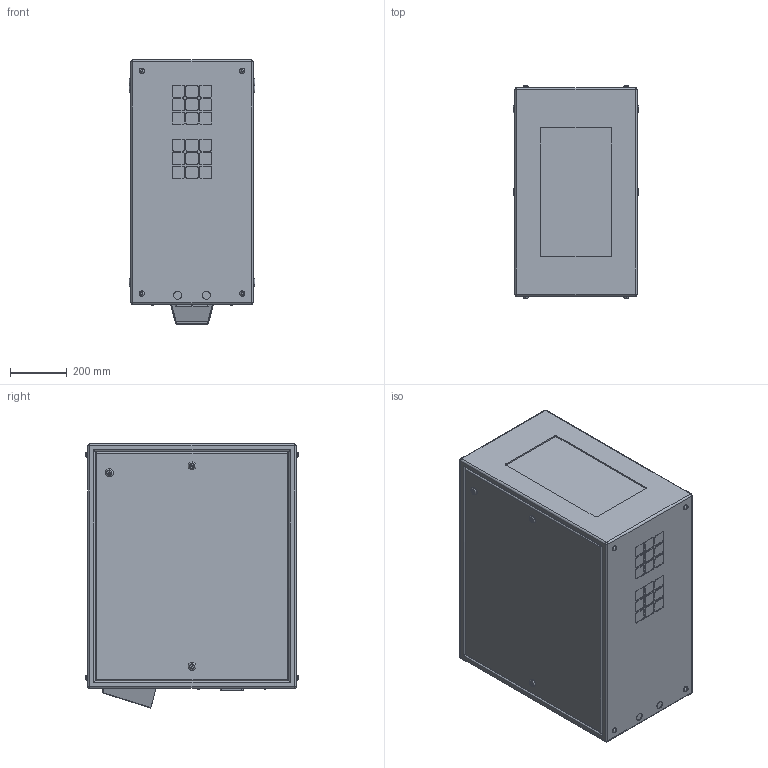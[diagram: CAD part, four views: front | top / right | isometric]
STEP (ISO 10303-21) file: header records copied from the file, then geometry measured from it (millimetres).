
FILE_DESCRIPTION (( 'STEP AP214' ), '1' );
FILE_NAME ('Blizzard 52.100.Px.xx R06.STEP', '2020-04-29T00:24:09', ( '' ), ( '' ), 'SwSTEP 2.0', 'SolidWorks 2018', '' );
FILE_SCHEMA (( 'AUTOMOTIVE_DESIGN' ));
Length unit declared in the file: inch
Products named in the file (1): Blizzard 52.100.Px.xx R06
Bounding box: 444.5 x 752.86 x 933.2 mm (x, y, z)
Volume: 274411806.9 mm3; surface area: 2993015.5 mm2
Topology: 1 solids, 5 shells, 554 faces, 1311 edges, 840 vertices
Faces by surface type: plane 295, cylinder 209, torus 40, sphere 10
Entity records: 18851 total; most frequent: DIRECTION 2855, CARTESIAN_POINT 2758, ORIENTED_EDGE 2606, EDGE_CURVE 1303, AXIS2_PLACEMENT_3D 1017, VERTEX_POINT 840, LINE 821, VECTOR 821
